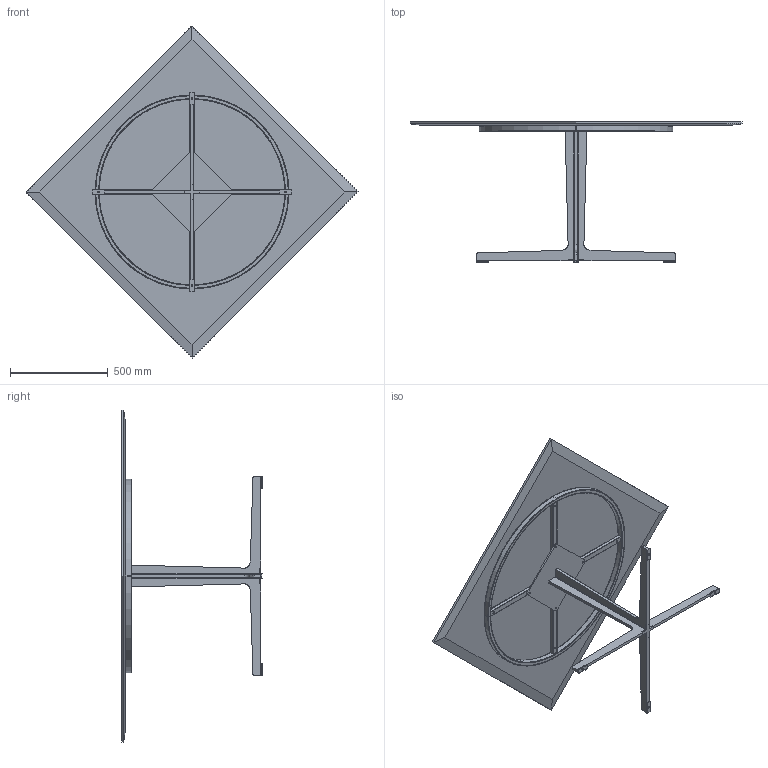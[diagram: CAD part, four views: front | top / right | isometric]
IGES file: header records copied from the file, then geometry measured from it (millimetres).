
Start section: SolidWorks IGES file using analytic representation for surfaces
Global section: file name: W:\design\CKR\spilt\IGS\120X120.IGS; native system: SolidWorks 2010; preprocessor: SolidWorks 2010; author: PC20; date: 150212.185814; units: millimetre
Bounding box: 1697.06 x 717 x 1697.06 mm (x, y, z)
Surface area: 4547432.6 mm2 (no closed solid volume)
Topology: 0 solids, 0 shells, 380 faces, 8996 edges, 10998 vertices
Faces by surface type: bspline 228, revolution 152
